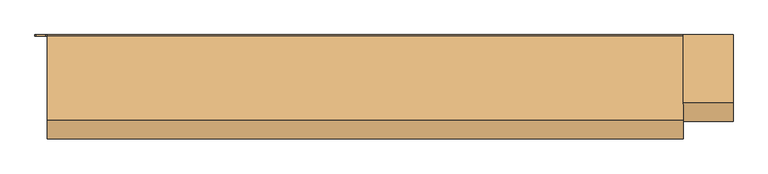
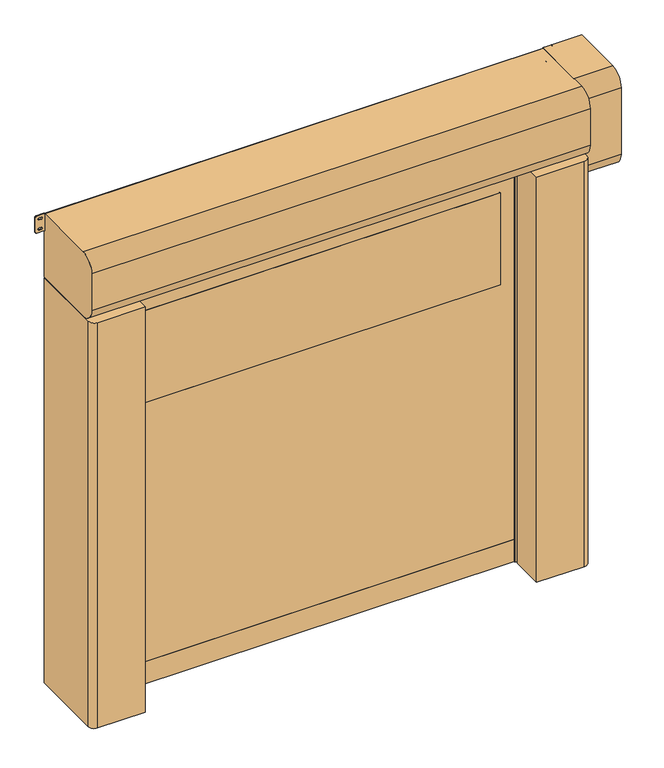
"""IFC4 building model written with IfcOpenShell, lengths in millimetres: door geometry, DO_WPB_Dynamicroll Frigo_Air_BMP : Dynamicroll Air."""

import ifcopenshell
import ifcopenshell.guid

model = None  # the IFC model being written
_history = None  # IfcOwnerHistory: only IFC2X3 demands one
_inside = {}  # id of a spatial element -> (the spatial element, [elements in it])
_under = {}  # id of a project, library or spatial element -> (it, [spatial elements below it])
_declared = {}  # id of a project -> (the project, [libraries it declares])
_typed = {}  # id of a type object -> (the type object, [elements of that type])
_made_of = {}  # id of a material, layer set ... -> (it, [elements and type objects made of it])


def new_model(schema):
    """Start an empty IFC model of exactly this schema.

    Asked for "IFC4X3", IfcOpenShell would pick the latest addendum, in which some entities
    have other attributes; the version numbers below select the first issue.
    IFC2X3 requires an IfcOwnerHistory on every rooted entity: one is made here for all.
    """
    global model, _history
    if schema == "IFC4X3":
        model = ifcopenshell.file(schema_version=(4, 3, 0, 0))
    else:
        model = ifcopenshell.file(schema=schema)
    _inside.clear()
    _under.clear()
    _declared.clear()
    _typed.clear()
    _made_of.clear()
    _history = None
    if model.schema == "IFC2X3":
        org = make("IfcOrganization", Name="unknown")
        user = make(
            "IfcPersonAndOrganization",
            ThePerson=make("IfcPerson", FamilyName="unknown"),
            TheOrganization=org,
        )
        app = make(
            "IfcApplication",
            ApplicationDeveloper=org,
            Version="unknown",
            ApplicationFullName="unknown",
            ApplicationIdentifier="unknown",
        )
        _history = make(
            "IfcOwnerHistory",
            OwningUser=user,
            OwningApplication=app,
            ChangeAction="ADDED",
            CreationDate=0,
        )
    return model


def make(cls, **values):
    """One entity of the class cls with the attributes given. An attribute that is None is left unset."""
    return model.create_entity(
        cls, **{name: value for name, value in values.items() if value is not None}
    )


def rooted(cls, **values):
    """An entity with a GlobalId (a new one), such as an element, a storey or a relation."""
    return make(cls, GlobalId=ifcopenshell.guid.new(), OwnerHistory=_history, **values)


def si_unit(unit_type, name, prefix=None):
    """IfcSIUnit, for example si_unit("LENGTHUNIT", "METRE", prefix="MILLI")."""
    return make("IfcSIUnit", UnitType=unit_type, Prefix=prefix, Name=name)


def assignment(units):
    """IfcUnitAssignment: the units of a project."""
    return None if units is None else make("IfcUnitAssignment", Units=units)


def point(xyz):
    """IfcCartesianPoint."""
    return None if xyz is None else make("IfcCartesianPoint", Coordinates=xyz)


def direction(xyz):
    """IfcDirection."""
    return None if xyz is None else make("IfcDirection", DirectionRatios=xyz)


def frame(location, z_axis=None, x_axis=None):
    """IfcAxis2Placement3D, a coordinate frame: its origin and axes. An axis left out is left unset."""
    return make(
        "IfcAxis2Placement3D",
        Location=point(location),
        Axis=direction(z_axis),
        RefDirection=direction(x_axis),
    )


def frame_2d(location, x_axis=None):
    """IfcAxis2Placement2D, a coordinate frame in the plane: its origin and x axis."""
    return make(
        "IfcAxis2Placement2D", Location=point(location), RefDirection=direction(x_axis)
    )


def origin():
    """The frame at (0, 0, 0) with its axes left unset."""
    return frame((0.0, 0.0, 0.0))


def origin_with_axes():
    """The frame at (0, 0, 0) with the z axis (0, 0, 1) and the x axis (1, 0, 0) written out."""
    return frame((0.0, 0.0, 0.0), z_axis=(0.0, 0.0, 1.0), x_axis=(1.0, 0.0, 0.0))


def place(relative_to, where):
    """IfcLocalPlacement: puts the frame where relative to a parent placement (None: the world)."""
    return make(
        "IfcLocalPlacement", PlacementRelTo=relative_to, RelativePlacement=where
    )


def context(
    kind, dimensions, precision=None, world=None, true_north=None, identifier=None
):
    """IfcGeometricRepresentationContext, for example the 3D "Model" context."""
    return make(
        "IfcGeometricRepresentationContext",
        ContextIdentifier=identifier,
        ContextType=kind,
        CoordinateSpaceDimension=dimensions,
        Precision=precision,
        WorldCoordinateSystem=world,
        TrueNorth=true_north,
    )


def project(units=None, contexts=None):
    """IfcProject with its units and contexts."""
    return rooted(
        "IfcProject",
        Name="project",
        RepresentationContexts=contexts,
        UnitsInContext=assignment(units),
    )


def spatial(cls, under=None, at=None, **own):
    """A site, building, storey or space (cls), placed at a placement, below another one or the project."""
    s = rooted(cls, ObjectPlacement=at, **own)
    if under is not None:
        _under.setdefault(under.id(), (under, []))[1].append(s)
    return s


def polyline(points):
    """IfcPolyline through the points."""
    return make("IfcPolyline", Points=[point(p) for p in points])


def circle_curve(where, radius):
    """IfcCircle in the frame where."""
    return make("IfcCircle", Position=where, Radius=radius)


def trimmed(basis, trim1, trim2, sense, master):
    """IfcTrimmedCurve: the piece of a basis curve between two trims."""
    return make(
        "IfcTrimmedCurve",
        BasisCurve=basis,
        Trim1=trim1,
        Trim2=trim2,
        SenseAgreement=sense,
        MasterRepresentation=master,
    )


def segment(curve, same_sense, transition):
    """IfcCompositeCurveSegment."""
    return make(
        "IfcCompositeCurveSegment",
        Transition=transition,
        SameSense=same_sense,
        ParentCurve=curve,
    )


def composite_curve(segments, self_intersect=None):
    """IfcCompositeCurve: segments joined end to end."""
    return make("IfcCompositeCurve", Segments=segments, SelfIntersect=self_intersect)


def outline(outer, holes=None, kind="AREA"):
    """IfcArbitraryClosedProfileDef: a profile drawn as a closed curve; with holes, ...WithVoids."""
    if holes is None:
        return make("IfcArbitraryClosedProfileDef", ProfileType=kind, OuterCurve=outer)
    return make(
        "IfcArbitraryProfileDefWithVoids",
        ProfileType=kind,
        OuterCurve=outer,
        InnerCurves=holes,
    )


def extrude(swept, where, along, depth):
    """IfcExtrudedAreaSolid: the profile swept, set in the frame where, extruded along a direction by depth."""
    return make(
        "IfcExtrudedAreaSolid",
        SweptArea=swept,
        Position=where,
        ExtrudedDirection=direction(along),
        Depth=depth,
    )


def shape(context_of_items, identifier, shape_type, items):
    """IfcShapeRepresentation: the items that make up one representation, for example the "Body"."""
    return make(
        "IfcShapeRepresentation",
        ContextOfItems=context_of_items,
        RepresentationIdentifier=identifier,
        RepresentationType=shape_type,
        Items=items,
    )


def source(mapping_origin, context_of_items, identifier, shape_type, items):
    """IfcRepresentationMap: a shape defined once, which mapped items show again and again."""
    return make(
        "IfcRepresentationMap",
        MappingOrigin=mapping_origin,
        MappedRepresentation=shape(context_of_items, identifier, shape_type, items),
    )


def transform(
    local_origin,
    x_axis=None,
    y_axis=None,
    z_axis=None,
    scale=None,
    scale2=None,
    scale3=None,
    uniform=True,
):
    """IfcCartesianTransformationOperator3D, or its non-uniform kind. x_axis, y_axis, z_axis: its Axis1, 2, 3."""
    if uniform:
        return make(
            "IfcCartesianTransformationOperator3D",
            Axis1=direction(x_axis),
            Axis2=direction(y_axis),
            LocalOrigin=point(local_origin),
            Scale=scale,
            Axis3=direction(z_axis),
        )
    return make(
        "IfcCartesianTransformationOperator3DnonUniform",
        Axis1=direction(x_axis),
        Axis2=direction(y_axis),
        LocalOrigin=point(local_origin),
        Scale=scale,
        Axis3=direction(z_axis),
        Scale2=scale2,
        Scale3=scale3,
    )


def mapped(mapping_source, mapping_target):
    """IfcMappedItem: shows the shape of a source again, moved by a transform."""
    return make(
        "IfcMappedItem", MappingSource=mapping_source, MappingTarget=mapping_target
    )


def made_of(thing, what):
    """Note that an element or type object is made of a material, layer set ...; save() writes the relation."""
    if what is not None:
        _made_of.setdefault(what.id(), (what, []))[1].append(thing)
    return thing


def element(
    cls,
    number,
    at=None,
    inside=None,
    cuts=None,
    type_object=None,
    material=None,
    context=None,
    identifier="Body",
    shape_type=None,
    held_by="IfcProductDefinitionShape",
    body=None,
    shapes=None,
    **own,
):
    """One element of the class cls, such as IfcWall. Its Tag is "e" and its number.

    at: its placement. inside: the storey or other place that contains it. cuts: it is an
    opening in that element (IfcRelVoidsElement). A single representation is given by context,
    identifier, shape_type and body (its items); several are given by shapes. held_by: the class
    of the entity that holds the representations. save() writes the other relations.
    """
    e = rooted(cls, Tag="e%d" % number, ObjectPlacement=at, **own)
    if body is not None:
        shapes = [shape(context, identifier, shape_type, body)]
    if shapes is not None:
        e.Representation = make(held_by, Representations=shapes)
    if inside is not None:
        _inside.setdefault(inside.id(), (inside, []))[1].append(e)
    if cuts is not None:
        rooted(
            "IfcRelVoidsElement", RelatingBuildingElement=cuts, RelatedOpeningElement=e
        )
    if type_object is not None:
        _typed.setdefault(type_object.id(), (type_object, []))[1].append(e)
    return made_of(e, material)


def aggregate(whole, parts):
    """IfcRelAggregates: a whole, such as a stair, and the parts it consists of."""
    return rooted("IfcRelAggregates", RelatingObject=whole, RelatedObjects=parts)


def save(model, path):
    """Write the relations noted so far, then the file.

    IfcRelAggregates (storeys below a building ...), IfcRelContainedInSpatialStructure (elements
    in a storey), IfcRelDefinesByType, IfcRelAssociatesMaterial and IfcRelDeclares: one each for
    every whole, place, type object, material and project.
    """
    for whole, parts in _under.values():
        aggregate(whole, parts)
    for where, things in _inside.values():
        rooted(
            "IfcRelContainedInSpatialStructure",
            RelatedElements=things,
            RelatingStructure=where,
        )
    for kind, things in _typed.values():
        rooted("IfcRelDefinesByType", RelatedObjects=things, RelatingType=kind)
    for what, things in _made_of.values():
        rooted("IfcRelAssociatesMaterial", RelatedObjects=things, RelatingMaterial=what)
    for by, libraries in _declared.values():
        rooted("IfcRelDeclares", RelatingContext=by, RelatedDefinitions=libraries)
    model.write(path)


def door_23fff084(model_context):
    return source(origin(), model_context, "Body", "SweptSolid", [
        extrude(outline(composite_curve([segment(trimmed(circle_curve(frame_2d((1416.6666667, 1171.0)), 6.0), [point((1422.6666667, 1171.0))], [point((1410.6666667, 1171.0))], False, "CARTESIAN"), True, "CONTINUOUS"), segment(polyline([(1410.6666667, 1171.0), (1410.6666667, 1189.0)]), True, "CONTINUOUS"), segment(trimmed(circle_curve(frame_2d((1416.6666667, 1189.0)), 6.0), [point((1410.6666667, 1189.0))], [point((1422.6666667, 1189.0))], False, "CARTESIAN"), True, "CONTINUOUS"), segment(polyline([(1422.6666667, 1189.0), (1422.6666667, 1171.0)]), True, "CONTINUOUS")], self_intersect=False)), frame((0.0, -20.0, 0.0), z_axis=(0.0, 1.0, 0.0), x_axis=(0.0, 0.0, 1.0)), (0.0, 0.0, 1.0), 20.0),
        extrude(outline(composite_curve([segment(trimmed(circle_curve(frame_2d((783.3333333, 1171.0)), 6.0), [point((789.3333333, 1171.0))], [point((777.3333333, 1171.0))], False, "CARTESIAN"), True, "CONTINUOUS"), segment(polyline([(777.3333333, 1171.0), (777.3333333, 1189.0)]), True, "CONTINUOUS"), segment(trimmed(circle_curve(frame_2d((783.3333333, 1189.0)), 6.0), [point((777.3333333, 1189.0))], [point((789.3333333, 1189.0))], False, "CARTESIAN"), True, "CONTINUOUS"), segment(polyline([(789.3333333, 1189.0), (789.3333333, 1171.0)]), True, "CONTINUOUS")], self_intersect=False)), frame((0.0, -20.0, 0.0), z_axis=(0.0, 1.0, 0.0), x_axis=(0.0, 0.0, 1.0)), (0.0, 0.0, 1.0), 20.0),
        extrude(outline(composite_curve([segment(trimmed(circle_curve(frame_2d((2050.0, 1171.0)), 6.0), [point((2056.0, 1171.0))], [point((2044.0, 1171.0))], False, "CARTESIAN"), True, "CONTINUOUS"), segment(polyline([(2044.0, 1171.0), (2044.0, 1189.0)]), True, "CONTINUOUS"), segment(trimmed(circle_curve(frame_2d((2050.0, 1189.0)), 6.0), [point((2044.0, 1189.0))], [point((2056.0, 1189.0))], False, "CARTESIAN"), True, "CONTINUOUS"), segment(polyline([(2056.0, 1189.0), (2056.0, 1171.0)]), True, "CONTINUOUS")], self_intersect=False)), frame((0.0, -20.0, 0.0), z_axis=(0.0, 1.0, 0.0), x_axis=(0.0, 0.0, 1.0)), (0.0, 0.0, 1.0), 20.0),
        extrude(outline(composite_curve([segment(trimmed(circle_curve(frame_2d((150.0, 1171.0)), 6.0), [point((156.0, 1171.0))], [point((144.0, 1171.0))], False, "CARTESIAN"), True, "CONTINUOUS"), segment(polyline([(144.0, 1171.0), (144.0, 1189.0)]), True, "CONTINUOUS"), segment(trimmed(circle_curve(frame_2d((150.0, 1189.0)), 6.0), [point((144.0, 1189.0))], [point((156.0, 1189.0))], False, "CARTESIAN"), True, "CONTINUOUS"), segment(polyline([(156.0, 1189.0), (156.0, 1171.0)]), True, "CONTINUOUS")], self_intersect=False)), frame((0.0, -20.0, 0.0), z_axis=(0.0, 1.0, 0.0), x_axis=(0.0, 0.0, 1.0)), (0.0, 0.0, 1.0), 20.0),
        extrude(outline(composite_curve([segment(polyline([(1422.6666667, -1171.0), (1422.6666667, -1189.0)]), True, "CONTINUOUS"), segment(trimmed(circle_curve(frame_2d((1416.6666667, -1189.0)), 6.0), [point((1422.6666667, -1189.0))], [point((1410.6666667, -1189.0))], False, "CARTESIAN"), True, "CONTINUOUS"), segment(polyline([(1410.6666667, -1189.0), (1410.6666667, -1171.0)]), True, "CONTINUOUS"), segment(trimmed(circle_curve(frame_2d((1416.6666667, -1171.0)), 6.0), [point((1410.6666667, -1171.0))], [point((1422.6666667, -1171.0))], False, "CARTESIAN"), True, "CONTINUOUS")], self_intersect=False)), frame((0.0, -20.0, 0.0), z_axis=(0.0, 1.0, 0.0), x_axis=(0.0, 0.0, 1.0)), (0.0, 0.0, 1.0), 20.0),
        extrude(outline(composite_curve([segment(polyline([(789.3333333, -1171.0), (789.3333333, -1189.0)]), True, "CONTINUOUS"), segment(trimmed(circle_curve(frame_2d((783.3333333, -1189.0)), 6.0), [point((789.3333333, -1189.0))], [point((777.3333333, -1189.0))], False, "CARTESIAN"), True, "CONTINUOUS"), segment(polyline([(777.3333333, -1189.0), (777.3333333, -1171.0)]), True, "CONTINUOUS"), segment(trimmed(circle_curve(frame_2d((783.3333333, -1171.0)), 6.0), [point((777.3333333, -1171.0))], [point((789.3333333, -1171.0))], False, "CARTESIAN"), True, "CONTINUOUS")], self_intersect=False)), frame((0.0, -20.0, 0.0), z_axis=(0.0, 1.0, 0.0), x_axis=(0.0, 0.0, 1.0)), (0.0, 0.0, 1.0), 20.0),
        extrude(outline(composite_curve([segment(polyline([(2056.0, -1171.0), (2056.0, -1189.0)]), True, "CONTINUOUS"), segment(trimmed(circle_curve(frame_2d((2050.0, -1189.0)), 6.0), [point((2056.0, -1189.0))], [point((2044.0, -1189.0))], False, "CARTESIAN"), True, "CONTINUOUS"), segment(polyline([(2044.0, -1189.0), (2044.0, -1171.0)]), True, "CONTINUOUS"), segment(trimmed(circle_curve(frame_2d((2050.0, -1171.0)), 6.0), [point((2044.0, -1171.0))], [point((2056.0, -1171.0))], False, "CARTESIAN"), True, "CONTINUOUS")], self_intersect=False)), frame((0.0, -20.0, 0.0), z_axis=(0.0, 1.0, 0.0), x_axis=(0.0, 0.0, 1.0)), (0.0, 0.0, 1.0), 20.0),
        extrude(outline(composite_curve([segment(polyline([(156.0, -1171.0), (156.0, -1189.0)]), True, "CONTINUOUS"), segment(trimmed(circle_curve(frame_2d((150.0, -1189.0)), 6.0), [point((156.0, -1189.0))], [point((144.0, -1189.0))], False, "CARTESIAN"), True, "CONTINUOUS"), segment(polyline([(144.0, -1189.0), (144.0, -1171.0)]), True, "CONTINUOUS"), segment(trimmed(circle_curve(frame_2d((150.0, -1171.0)), 6.0), [point((144.0, -1171.0))], [point((156.0, -1171.0))], False, "CARTESIAN"), True, "CONTINUOUS")], self_intersect=False)), frame((0.0, -20.0, 0.0), z_axis=(0.0, 1.0, 0.0), x_axis=(0.0, 0.0, 1.0)), (0.0, 0.0, 1.0), 20.0),
        extrude(outline(composite_curve([segment(trimmed(circle_curve(frame_2d((1526.0, 929.0)), 1.0), [point((1525.0, 929.0))], [point((1526.0, 930.0))], False, "CARTESIAN"), True, "CONTINUOUS"), segment(polyline([(1526.0, 930.0), (2024.0, 930.0)]), True, "CONTINUOUS"), segment(trimmed(circle_curve(frame_2d((2024.0, 929.0)), 1.0), [point((2024.0, 930.0))], [point((2025.0, 929.0))], False, "CARTESIAN"), True, "CONTINUOUS"), segment(polyline([(2025.0, 929.0), (2025.0, -929.0)]), True, "CONTINUOUS"), segment(trimmed(circle_curve(frame_2d((2024.0, -929.0)), 1.0), [point((2025.0, -929.0))], [point((2024.0, -930.0))], False, "CARTESIAN"), True, "CONTINUOUS"), segment(polyline([(2024.0, -930.0), (1526.0, -930.0)]), True, "CONTINUOUS"), segment(trimmed(circle_curve(frame_2d((1526.0, -929.0)), 1.0), [point((1526.0, -930.0))], [point((1525.0, -929.0))], False, "CARTESIAN"), True, "CONTINUOUS"), segment(polyline([(1525.0, -929.0), (1525.0, 929.0)]), True, "CONTINUOUS")], self_intersect=False)), frame((0.0, -228.5, 0.0), z_axis=(0.0, 1.0, 0.0), x_axis=(0.0, 0.0, 1.0)), (0.0, 0.0, 1.0), 7.0),
        extrude(outline(polyline([(120.0, -1012.0), (120.0, 1012.0), (2375.0, 1012.0), (2375.0, -1012.0), (120.0, -1012.0)]), holes=[composite_curve([segment(trimmed(circle_curve(frame_2d((1526.0, 929.0)), 1.0), [point((1526.0, 930.0))], [point((1525.0, 929.0))], True, "CARTESIAN"), True, "CONTINUOUS"), segment(polyline([(1525.0, 929.0), (1525.0, -929.0)]), True, "CONTINUOUS"), segment(trimmed(circle_curve(frame_2d((1526.0, -929.0)), 1.0), [point((1525.0, -929.0))], [point((1526.0, -930.0))], True, "CARTESIAN"), True, "CONTINUOUS"), segment(polyline([(1526.0, -930.0), (2024.0, -930.0)]), True, "CONTINUOUS"), segment(trimmed(circle_curve(frame_2d((2024.0, -929.0)), 1.0), [point((2024.0, -930.0))], [point((2025.0, -929.0))], True, "CARTESIAN"), True, "CONTINUOUS"), segment(polyline([(2025.0, -929.0), (2025.0, 929.0)]), True, "CONTINUOUS"), segment(trimmed(circle_curve(frame_2d((2024.0, 929.0)), 1.0), [point((2025.0, 929.0))], [point((2024.0, 930.0))], True, "CARTESIAN"), True, "CONTINUOUS"), segment(polyline([(2024.0, 930.0), (1526.0, 930.0)]), True, "CONTINUOUS")], self_intersect=False)]), frame((0.0, -228.5, 0.0), z_axis=(0.0, 1.0, 0.0), x_axis=(0.0, 0.0, 1.0)), (0.0, 0.0, 1.0), 7.0),
        extrude(outline(polyline([(-1012.0, -219.5), (1012.0, -219.5), (1012.0, -230.5), (-1012.0, -230.5), (-1012.0, -219.5)])), origin_with_axes(), (0.0, 0.0, 1.0), 120.0),
        extrude(outline(composite_curve([segment(polyline([(-1280.0, 0.0), (-1015.0, 0.0), (-1015.0, -209.2857143), (-1035.0, -215.0), (-1000.0, -215.0), (-1000.0, -221.5), (-1020.0, -221.5), (-1020.0, -228.5), (-1000.0, -228.5), (-1000.0, -235.0), (-1035.0, -235.0), (-1035.0, -250.0), (-1005.0, -250.0), (-1005.0, -420.0), (-1250.0, -420.0)]), True, "CONTINUOUS"), segment(trimmed(circle_curve(frame_2d((-1250.0, -390.0)), 30.0), [point((-1250.0, -420.0))], [point((-1280.0, -390.0))], False, "CARTESIAN"), True, "CONTINUOUS"), segment(polyline([(-1280.0, -390.0), (-1280.0, 0.0)]), True, "CONTINUOUS")], self_intersect=False)), origin_with_axes(), (0.0, 0.0, 1.0), 2200.0),
        extrude(outline(composite_curve([segment(polyline([(1280.0, 0.0), (1280.0, -390.0)]), True, "CONTINUOUS"), segment(trimmed(circle_curve(frame_2d((1250.0, -390.0)), 30.0), [point((1280.0, -390.0))], [point((1250.0, -420.0))], False, "CARTESIAN"), True, "CONTINUOUS"), segment(polyline([(1250.0, -420.0), (1005.0, -420.0), (1005.0, -250.0), (1035.0, -250.0), (1035.0, -235.0), (1000.0, -235.0), (1000.0, -228.5), (1020.0, -228.5), (1020.0, -221.5), (1000.0, -221.5), (1000.0, -215.0), (1035.0, -215.0), (1015.0, -209.2857143), (1015.0, 0.0), (1280.0, 0.0)]), True, "CONTINUOUS")], self_intersect=False)), origin_with_axes(), (0.0, 0.0, 1.0), 2200.0),
        extrude(outline(composite_curve([segment(polyline([(0.0, 2550.0), (0.0, 2040.0), (-275.0, 2040.0)]), True, "CONTINUOUS"), segment(trimmed(circle_curve(frame_2d((-275.0, 2115.0)), 75.0), [point((-275.0, 2040.0))], [point((-350.0, 2115.0))], False, "CARTESIAN"), True, "CONTINUOUS"), segment(polyline([(-350.0, 2115.0), (-350.0, 2475.0)]), True, "CONTINUOUS"), segment(trimmed(circle_curve(frame_2d((-275.0, 2475.0)), 75.0), [point((-350.0, 2475.0))], [point((-275.0, 2550.0))], False, "CARTESIAN"), True, "CONTINUOUS"), segment(polyline([(-275.0, 2550.0), (0.0, 2550.0)]), True, "CONTINUOUS")], self_intersect=False)), frame((1280.0, 0.0, 0.0), z_axis=(1.0, 0.0, 0.0), x_axis=(0.0, 1.0, 0.0)), (0.0, 0.0, 1.0), 200.0),
        extrude(outline(composite_curve([segment(trimmed(circle_curve(frame_2d((-5.0, 2205.0)), 5.0), [point((0.0, 2205.0))], [point((-5.0, 2200.0))], False, "CARTESIAN"), True, "CONTINUOUS"), segment(polyline([(-5.0, 2200.0), (-345.0, 2200.0)]), True, "CONTINUOUS"), segment(trimmed(circle_curve(frame_2d((-345.0, 2275.0)), 75.0), [point((-345.0, 2200.0))], [point((-420.0, 2275.0))], False, "CARTESIAN"), True, "CONTINUOUS"), segment(polyline([(-420.0, 2275.0), (-420.0, 2475.0)]), True, "CONTINUOUS"), segment(trimmed(circle_curve(frame_2d((-345.0, 2475.0)), 75.0), [point((-420.0, 2475.0))], [point((-345.0, 2550.0))], False, "CARTESIAN"), True, "CONTINUOUS"), segment(polyline([(-345.0, 2550.0), (-5.0, 2550.0)]), True, "CONTINUOUS"), segment(trimmed(circle_curve(frame_2d((-5.0, 2545.0)), 5.0), [point((-5.0, 2550.0))], [point((0.0, 2545.0))], False, "CARTESIAN"), True, "CONTINUOUS"), segment(polyline([(0.0, 2545.0), (0.0, 2205.0)]), True, "CONTINUOUS")], self_intersect=False)), frame((-1280.0, 0.0, 0.0), z_axis=(1.0, 0.0, 0.0), x_axis=(0.0, 1.0, 0.0)), (0.0, 0.0, 1.0), 2560.0),
        extrude(outline(composite_curve([segment(trimmed(circle_curve(frame_2d((2463.75, 1285.75)), 5.75), [point((2463.75, 1280.0))], [point((2458.0, 1285.75))], False, "CARTESIAN"), True, "CONTINUOUS"), segment(polyline([(2458.0, 1285.75), (2458.0, 1323.25)]), True, "CONTINUOUS"), segment(trimmed(circle_curve(frame_2d((2463.75, 1323.25)), 5.75), [point((2458.0, 1323.25))], [point((2463.75, 1329.0))], False, "CARTESIAN"), True, "CONTINUOUS"), segment(polyline([(2463.75, 1329.0), (2544.25, 1329.0)]), True, "CONTINUOUS"), segment(trimmed(circle_curve(frame_2d((2544.25, 1323.25)), 5.75), [point((2544.25, 1329.0))], [point((2550.0, 1323.25))], False, "CARTESIAN"), True, "CONTINUOUS"), segment(polyline([(2550.0, 1323.25), (2550.0, 1285.75)]), True, "CONTINUOUS"), segment(trimmed(circle_curve(frame_2d((2544.25, 1285.75)), 5.75), [point((2550.0, 1285.75))], [point((2544.25, 1280.0))], False, "CARTESIAN"), True, "CONTINUOUS"), segment(polyline([(2544.25, 1280.0), (2463.75, 1280.0)]), True, "CONTINUOUS")], self_intersect=False), holes=[composite_curve([segment(trimmed(circle_curve(frame_2d((2476.5, 1308.75)), 5.75), [point((2482.25, 1308.75))], [point((2470.75, 1308.75))], True, "CARTESIAN"), True, "CONTINUOUS"), segment(polyline([(2470.75, 1308.75), (2470.75, 1300.25)]), True, "CONTINUOUS"), segment(trimmed(circle_curve(frame_2d((2476.5, 1300.25)), 5.75), [point((2470.75, 1300.25))], [point((2482.25, 1300.25))], True, "CARTESIAN"), True, "CONTINUOUS"), segment(polyline([(2482.25, 1300.25), (2482.25, 1308.75)]), True, "CONTINUOUS")], self_intersect=False), composite_curve([segment(trimmed(circle_curve(frame_2d((2531.5, 1308.75)), 5.75), [point((2537.25, 1308.75))], [point((2525.75, 1308.75))], True, "CARTESIAN"), True, "CONTINUOUS"), segment(polyline([(2525.75, 1308.75), (2525.75, 1300.25)]), True, "CONTINUOUS"), segment(trimmed(circle_curve(frame_2d((2531.5, 1300.25)), 5.75), [point((2525.75, 1300.25))], [point((2537.25, 1300.25))], True, "CARTESIAN"), True, "CONTINUOUS"), segment(polyline([(2537.25, 1300.25), (2537.25, 1308.75)]), True, "CONTINUOUS")], self_intersect=False)]), frame((0.0, -5.0, 0.0), z_axis=(0.0, 1.0, 0.0), x_axis=(0.0, 0.0, 1.0)), (0.0, 0.0, 1.0), 5.0),
        extrude(outline(composite_curve([segment(trimmed(circle_curve(frame_2d((2463.75, -1323.25)), 5.75), [point((2463.75, -1329.0))], [point((2458.0, -1323.25))], False, "CARTESIAN"), True, "CONTINUOUS"), segment(polyline([(2458.0, -1323.25), (2458.0, -1285.75)]), True, "CONTINUOUS"), segment(trimmed(circle_curve(frame_2d((2463.75, -1285.75)), 5.75), [point((2458.0, -1285.75))], [point((2463.75, -1280.0))], False, "CARTESIAN"), True, "CONTINUOUS"), segment(polyline([(2463.75, -1280.0), (2544.25, -1280.0)]), True, "CONTINUOUS"), segment(trimmed(circle_curve(frame_2d((2544.25, -1285.75)), 5.75), [point((2544.25, -1280.0))], [point((2550.0, -1285.75))], False, "CARTESIAN"), True, "CONTINUOUS"), segment(polyline([(2550.0, -1285.75), (2550.0, -1323.25)]), True, "CONTINUOUS"), segment(trimmed(circle_curve(frame_2d((2544.25, -1323.25)), 5.75), [point((2550.0, -1323.25))], [point((2544.25, -1329.0))], False, "CARTESIAN"), True, "CONTINUOUS"), segment(polyline([(2544.25, -1329.0), (2463.75, -1329.0)]), True, "CONTINUOUS")], self_intersect=False), holes=[composite_curve([segment(trimmed(circle_curve(frame_2d((2476.5, -1300.25)), 5.75), [point((2482.25, -1300.25))], [point((2470.75, -1300.25))], True, "CARTESIAN"), True, "CONTINUOUS"), segment(polyline([(2470.75, -1300.25), (2470.75, -1308.75)]), True, "CONTINUOUS"), segment(trimmed(circle_curve(frame_2d((2476.5, -1308.75)), 5.75), [point((2470.75, -1308.75))], [point((2482.25, -1308.75))], True, "CARTESIAN"), True, "CONTINUOUS"), segment(polyline([(2482.25, -1308.75), (2482.25, -1300.25)]), True, "CONTINUOUS")], self_intersect=False), composite_curve([segment(trimmed(circle_curve(frame_2d((2531.5, -1300.25)), 5.75), [point((2537.25, -1300.25))], [point((2525.75, -1300.25))], True, "CARTESIAN"), True, "CONTINUOUS"), segment(polyline([(2525.75, -1300.25), (2525.75, -1308.75)]), True, "CONTINUOUS"), segment(trimmed(circle_curve(frame_2d((2531.5, -1308.75)), 5.75), [point((2525.75, -1308.75))], [point((2537.25, -1308.75))], True, "CARTESIAN"), True, "CONTINUOUS"), segment(polyline([(2537.25, -1308.75), (2537.25, -1300.25)]), True, "CONTINUOUS")], self_intersect=False)]), frame((0.0, -5.0, 0.0), z_axis=(0.0, 1.0, 0.0), x_axis=(0.0, 0.0, 1.0)), (0.0, 0.0, 1.0), 5.0),
    ])


if __name__ == "__main__":
    model = new_model("IFC4")
    model_context = context("Model", 3, world=origin())
    ifc_project = project(units=[si_unit("LENGTHUNIT", "METRE", prefix="MILLI")], contexts=[model_context])
    site = spatial("IfcSite", under=ifc_project)
    building = spatial("IfcBuilding", under=site)
    placement = place(None, origin())
    door_shape = door_23fff084(model_context)
    element("IfcDoor", 1, ObjectType="DO_WPB_Dynamicroll Frigo_Air_BMP : Dynamicroll Air", at=placement, inside=building, context=model_context, shape_type="MappedRepresentation", body=[
        mapped(door_shape, transform((0.0, 0.0, 0.0), x_axis=(1.0, 0.0, 0.0), y_axis=(0.0, 1.0, 0.0), z_axis=(0.0, 0.0, 1.0))),
    ])
    save(model, "model.ifc")
